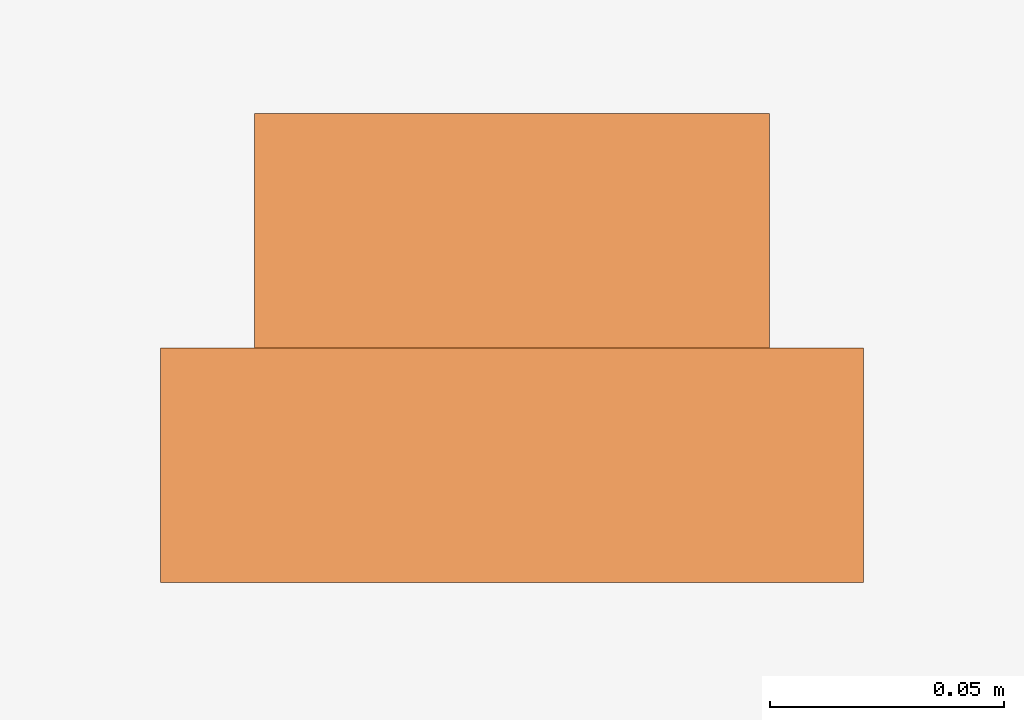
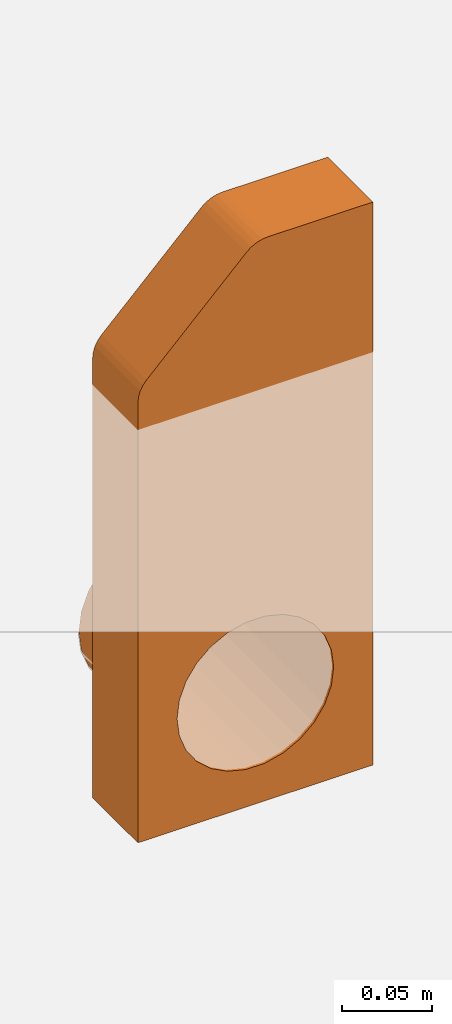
# One storey, part 2 of 2: 1 proxy.
"""IFC2X3 building model written with IfcOpenShell, lengths in millimetres."""

from ifc_helpers import new_model, entity, si_unit, converted_unit, direction, frame, frame_2d, origin, origin_2d_with_axis, place, context, subcontext, project, spatial, polyline, circle_curve, parameter, trimmed, segment, composite_curve, outline, extrude, source, transform, mapped, material, material_list, element, save


model = new_model("IFC2X3")

# Units and contexts
model_context = context("Model", 3, precision=1e-06, world=origin(), true_north=direction((2.0, 6.12303176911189e-17, 1.0)))
context_of_model = context(None, 3, precision=1e-06, world=origin(), true_north=direction((2.0, 6.12303176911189e-17, 1.0)))
body_context = subcontext(model_context, "Body", "Model", "MODEL_VIEW")
ifc_project = project(units=[si_unit("LENGTHUNIT", "METRE", prefix="MILLI"), si_unit("AREAUNIT", "SQUARE_METRE", prefix="MILLI"), si_unit("VOLUMEUNIT", "CUBIC_METRE", prefix="MILLI"), converted_unit("PLANEANGLEUNIT", "DEGREE", entity("IfcRatioMeasure", 0.0174532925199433), si_unit("PLANEANGLEUNIT", "RADIAN"), dimensions=[0, 0, 0, 0, 0, 0, 0]), si_unit("TIMEUNIT", "SECOND")], contexts=[model_context, context_of_model])

# Site, building, storey
site_placement = place(None, origin())
site = spatial("IfcSite", under=ifc_project, at=site_placement, Name="Default", CompositionType="ELEMENT")
building_placement = place(site_placement, origin())
building = spatial("IfcBuilding", under=site, at=building_placement, CompositionType="ELEMENT")
storey_placement = place(building_placement, origin())
storey = spatial("IfcBuildingStorey", under=building, at=storey_placement, Name="Level 1", CompositionType="ELEMENT", Elevation=0.0)

# Proxy
ifc_material_1 = material(Name="Orange")
ifc_material_2 = material(Name="ACO Polymer Concrete.")
ifc_material_list = material_list([ifc_material_1, ifc_material_2])
shared_shape = source(origin(), body_context, "Body", "SweptSolid", [
    extrude(outline(composite_curve([segment(trimmed(circle_curve(origin_2d_with_axis(), 55.0), [parameter(5.08888749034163e-14)], [parameter(180.0)], True, "PARAMETER"), True, "CONTINUOUS"), segment(trimmed(circle_curve(origin_2d_with_axis(), 55.0), [parameter(180.0)], [parameter(360.0)], True, "PARAMETER"), True, "CONTINUOUS")], self_intersect=False), holes=[composite_curve([segment(trimmed(circle_curve(frame_2d((0.0, 0.00564175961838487), x_axis=(1.0, 0.0)), 50.0000000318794), [parameter(359.99800446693)], [parameter(180.00199553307)], True, "PARAMETER"), False, "CONTINUOUS"), segment(trimmed(circle_curve(frame_2d((0.0, 0.00390032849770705), x_axis=(1.0, 0.0)), 50.0000000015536), [parameter(180.0)], [parameter(0.0)], True, "PARAMETER"), False, "CONTINUOUS")], self_intersect=False)]), frame((0.0, 50.0, -204.992819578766), z_axis=(0.0, 1.0, 0.0), x_axis=(1.0, 0.0, 0.0)), (0.0, 0.0, 1.0), 50.0),
    extrude(outline(composite_curve([segment(trimmed(circle_curve(frame_2d((46.4100082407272, 48.254236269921), x_axis=(1.0, 0.0)), 19.0), [parameter(0.0)], [parameter(44.9999999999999)], True, "PARAMETER"), True, "CONTINUOUS"), segment(polyline([(59.8450370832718, 61.6892651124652), (-4.02502060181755, 125.559322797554)]), True, "CONTINUOUS"), segment(trimmed(circle_curve(frame_2d((-17.4600494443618, 112.12429395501), x_axis=(1.0, 0.0)), 19.0), [parameter(44.9999999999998)], [parameter(89.9999999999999)], True, "PARAMETER"), True, "CONTINUOUS"), segment(polyline([(-17.4600494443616, 131.12429395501), (-84.589991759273, 131.12429395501)]), True, "CONTINUOUS"), segment(polyline([(-84.589991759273, 131.12429395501), (-84.5899917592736, -248.87570604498)]), True, "CONTINUOUS"), segment(polyline([(-84.5899917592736, -248.87570604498), (65.4100082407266, -248.875706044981)]), True, "CONTINUOUS"), segment(polyline([(65.4100082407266, -248.875706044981), (65.410008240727, 48.254236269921)]), True, "CONTINUOUS")], self_intersect=False), holes=[composite_curve([segment(trimmed(circle_curve(frame_2d((-9.58999175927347, -173.87242595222), x_axis=(1.0, 0.0)), 50.0), [parameter(180.0)], [parameter(360.0)], True, "PARAMETER"), False, "CONTINUOUS"), segment(trimmed(circle_curve(frame_2d((-9.58999175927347, -173.87242595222), x_axis=(1.0, 0.0)), 50.0), [parameter(0.0)], [parameter(180.0)], True, "PARAMETER"), False, "CONTINUOUS")], self_intersect=False)]), frame((-9.58999175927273, 0.0, -31.1242939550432), z_axis=(0.0, 1.0, 0.0), x_axis=(-1.0, 0.0, 0.0)), (0.0, 0.0, 1.0), 50.0),
])
proxy_placement = place(storey_placement, frame((-13330.2750822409, -1412.72179195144, 0.0)))
element("IfcBuildingElementProxy", 1, at=proxy_placement, inside=storey, material=ifc_material_list, Name="Civil-Drainage-Channel-ACO-KerbDrain-SP380:4248 - RH inlet/outlet end cap:4248 - RH inlet/outlet end cap", ObjectType="4248 - RH inlet/outlet end cap", CompositionType="ELEMENT", context=body_context, shape_type="MappedRepresentation", body=[
    mapped(shared_shape, transform((0.0, 0.0, 0.0), scale=1.0)),
])

save(model, "model.ifc")
